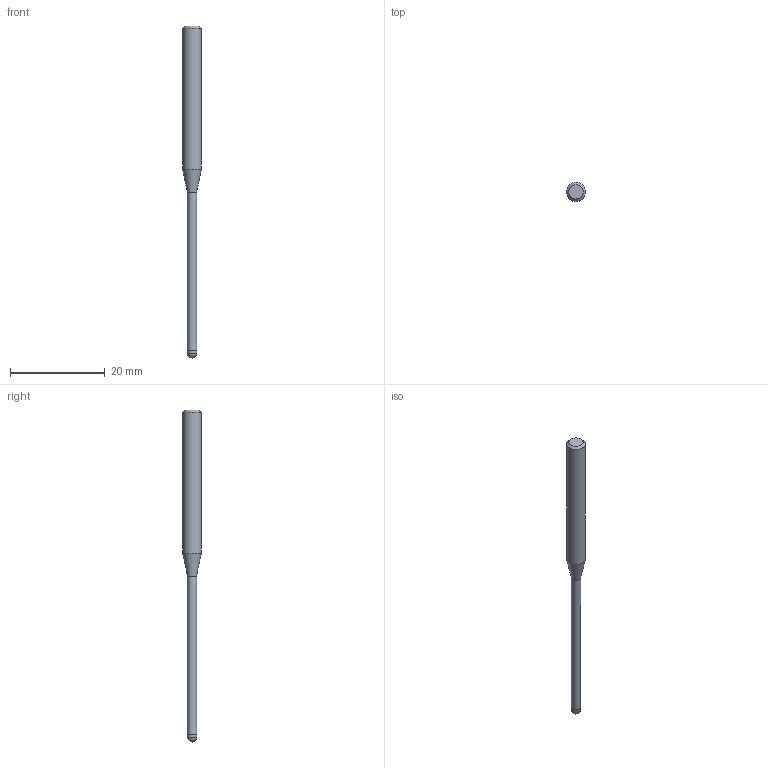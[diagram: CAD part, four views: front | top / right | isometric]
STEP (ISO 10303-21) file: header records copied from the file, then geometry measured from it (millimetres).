
FILE_DESCRIPTION((''),'2;1');
FILE_NAME('C:\Users\nsx150\AppData\Local\Temp\Mastercam 2021\ARV7HD45SN\TEMP.step','2023-06-13T16:37:59',(''),(''),'STEP Write','Mastercam 2021 ... CNC Software, Inc.','');
FILE_SCHEMA(('AUTOMOTIVE_DESIGN'));
Length unit declared in the file: millimetre
Products named in the file (1): None
Bounding box: 4 x 4 x 70 mm (x, y, z)
Volume: 515.1 mm3; surface area: 653.4 mm2
Topology: 2 solids, 2 shells, 9 faces, 14 edges, 8 vertices
Faces by surface type: plane 3, cylinder 3, cone 2, sphere 1
Full cylindrical faces by diameter (mm): 1.94 x1, 2 x1, 4 x1
Entity records: 211 total; most frequent: DIRECTION 36, CARTESIAN_POINT 25, AXIS2_PLACEMENT_3D 18, ORIENTED_EDGE 14, EDGE_LOOP 14, STYLED_ITEM 12, ADVANCED_FACE 9, FACE_BOUND 8
